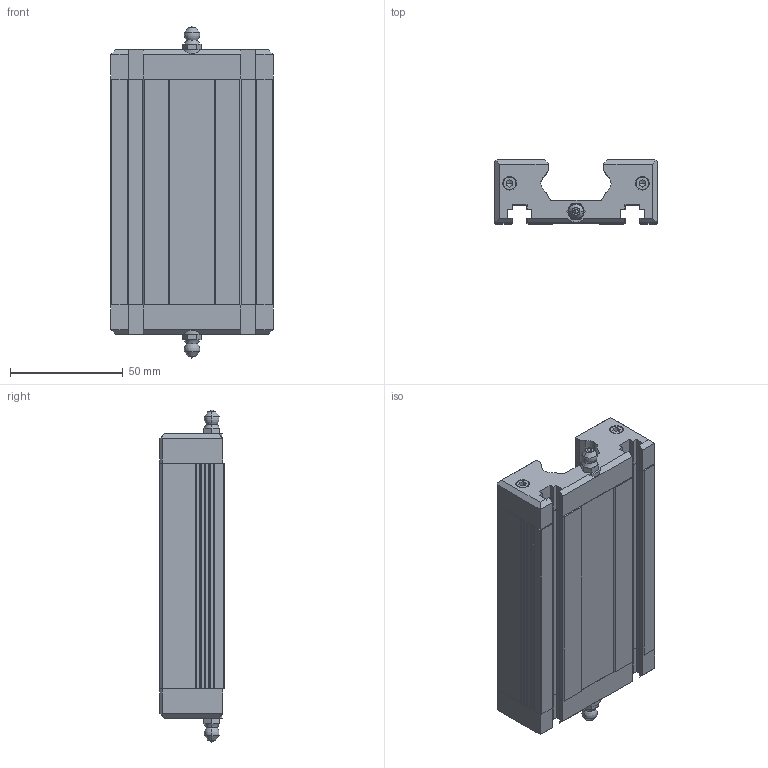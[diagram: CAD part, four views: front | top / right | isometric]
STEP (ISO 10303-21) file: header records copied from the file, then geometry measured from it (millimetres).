
FILE_DESCRIPTION (( 'STEP AP203' ), '1' );
FILE_NAME ('Wellenschlitten WS 1_-_WS 1 - L 100.step', '2005-06-07T09:51:43', ( ' ' ), ( ' ' ), 'SwSTEP 2.0', 'SolidWorks 2005143', '' );
FILE_SCHEMA (( 'CONFIG_CONTROL_DESIGN' ));
Length unit declared in the file: millimetre
Products named in the file (1): Wellenschlitten WS 1_-_WS 1 - L 100
Bounding box: 72 x 28.5 x 147.1 mm (x, y, z)
Volume: 165918.3 mm3; surface area: 50032.7 mm2
Topology: 1 solids, 1 shells, 623 faces, 1681 edges, 1068 vertices
Faces by surface type: plane 456, cylinder 127, cone 28, torus 8, sphere 4
Entity records: 19472 total; most frequent: CARTESIAN_POINT 3899, ORIENTED_EDGE 3314, DIRECTION 3155, EDGE_CURVE 1657, VECTOR 1083, LINE 1083, VERTEX_POINT 1068, AXIS2_PLACEMENT_3D 1036
